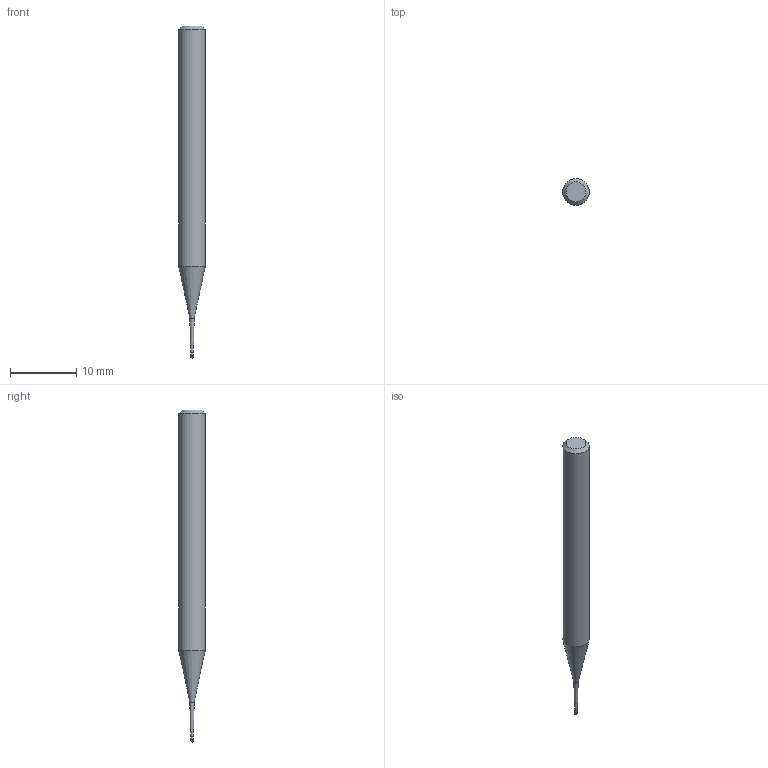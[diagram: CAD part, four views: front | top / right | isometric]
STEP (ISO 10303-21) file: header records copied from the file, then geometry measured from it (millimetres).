
FILE_DESCRIPTION((''),'2;1');
FILE_NAME('C:\Users\nsx150\AppData\Local\Temp\Mastercam 2021\SNAKH10GOD\TEMP.step','2021-10-21T13:31:01',(''),(''),'STEP Write','Mastercam 2021 ... CNC Software, Inc.','');
FILE_SCHEMA(('AUTOMOTIVE_DESIGN'));
Length unit declared in the file: millimetre
Products named in the file (1): None
Bounding box: 4 x 4 x 50 mm (x, y, z)
Volume: 493.5 mm3; surface area: 531.7 mm2
Topology: 2 solids, 2 shells, 10 faces, 16 edges, 9 vertices
Faces by surface type: plane 3, cylinder 3, cone 3, sphere 1
Full cylindrical faces by diameter (mm): 0.395 x1, 0.4 x1, 4 x1
Entity records: 232 total; most frequent: DIRECTION 40, CARTESIAN_POINT 28, AXIS2_PLACEMENT_3D 20, ORIENTED_EDGE 16, EDGE_LOOP 16, STYLED_ITEM 13, ADVANCED_FACE 10, FACE_BOUND 9
